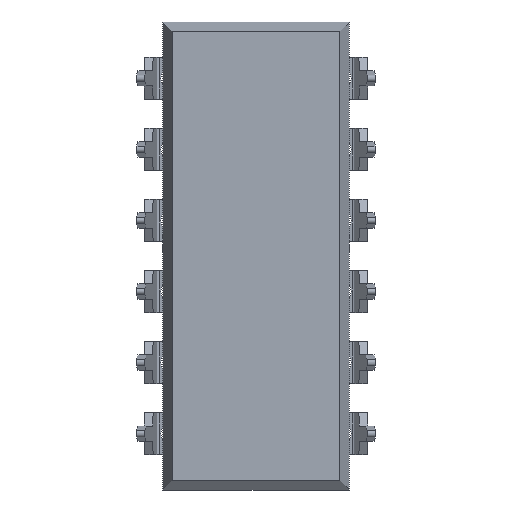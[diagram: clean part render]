
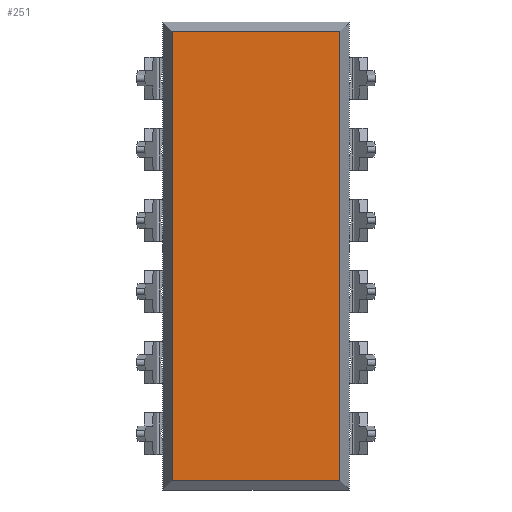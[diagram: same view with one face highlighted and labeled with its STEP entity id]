
A CAD part, front view. The second image highlights one B-rep face of the part: STEP entity #251.
In plain terms, the highlighted planar face has unit normal (0, -1, 0).
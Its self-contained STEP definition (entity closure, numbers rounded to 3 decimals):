
#251 = ADVANCED_FACE ( 'NONE', ( #22675 ), #5483, .F. ) ;
#323 = CARTESIAN_POINT ( 'NONE',  ( 2.997, 0., 16.72 ) ) ;
#1409 = CARTESIAN_POINT ( 'NONE',  ( -2.997, 0., 16.72 ) ) ;
#3045 = EDGE_CURVE ( 'NONE', #3361, #16728, #18583, .T. ) ;
#3361 = VERTEX_POINT ( 'NONE', #14408 ) ;
#3621 = DIRECTION ( 'NONE',  ( 0., 0., 1. ) ) ;
#3644 = VECTOR ( 'NONE', #24075, 1000. ) ;
#3993 = CARTESIAN_POINT ( 'NONE',  ( 2.997, 0., 0.328 ) ) ;
#4417 = DIRECTION ( 'NONE',  ( -1., 0., 0. ) ) ;
#4543 = VERTEX_POINT ( 'NONE', #11562 ) ;
#4850 = VECTOR ( 'NONE', #4417, 1000. ) ;
#5483 = PLANE ( 'NONE',  #18562 ) ;
#7944 = DIRECTION ( 'NONE',  ( 0., 0., -1. ) ) ;
#8772 = LINE ( 'NONE', #16450, #3644 ) ;
#9019 = DIRECTION ( 'NONE',  ( 0., 0., -1. ) ) ;
#9244 = EDGE_CURVE ( 'NONE', #4543, #10619, #17494, .T. ) ;
#9813 = ORIENTED_EDGE ( 'NONE', *, *, #14377, .F. ) ;
#10619 = VERTEX_POINT ( 'NONE', #3993 ) ;
#11562 = CARTESIAN_POINT ( 'NONE',  ( 2.997, 0., 16.392 ) ) ;
#12181 = ORIENTED_EDGE ( 'NONE', *, *, #3045, .T. ) ;
#13133 = CARTESIAN_POINT ( 'NONE',  ( -2.997, 0., 16.72 ) ) ;
#13936 = LINE ( 'NONE', #21598, #4850 ) ;
#14377 = EDGE_CURVE ( 'NONE', #10619, #16728, #13936, .T. ) ;
#14408 = CARTESIAN_POINT ( 'NONE',  ( -2.997, 0., 16.392 ) ) ;
#14431 = EDGE_CURVE ( 'NONE', #4543, #3361, #8772, .T. ) ;
#14535 = EDGE_LOOP ( 'NONE', ( #22416, #19529, #12181, #9813 ) ) ;
#14847 = VECTOR ( 'NONE', #7944, 1000. ) ;
#16450 = CARTESIAN_POINT ( 'NONE',  ( 3.325, 0., 16.392 ) ) ;
#16728 = VERTEX_POINT ( 'NONE', #24481 ) ;
#17494 = LINE ( 'NONE', #323, #14847 ) ;
#18562 = AXIS2_PLACEMENT_3D ( 'NONE', #13133, #20799, #3621 ) ;
#18583 = LINE ( 'NONE', #1409, #23746 ) ;
#19529 = ORIENTED_EDGE ( 'NONE', *, *, #14431, .T. ) ;
#20799 = DIRECTION ( 'NONE',  ( 0., 1., 0. ) ) ;
#21598 = CARTESIAN_POINT ( 'NONE',  ( 3.325, 0., 0.328 ) ) ;
#22416 = ORIENTED_EDGE ( 'NONE', *, *, #9244, .F. ) ;
#22675 = FACE_OUTER_BOUND ( 'NONE', #14535, .T. ) ;
#23746 = VECTOR ( 'NONE', #9019, 1000. ) ;
#24075 = DIRECTION ( 'NONE',  ( -1., 0., 0. ) ) ;
#24481 = CARTESIAN_POINT ( 'NONE',  ( -2.997, 0., 0.328 ) ) ;
